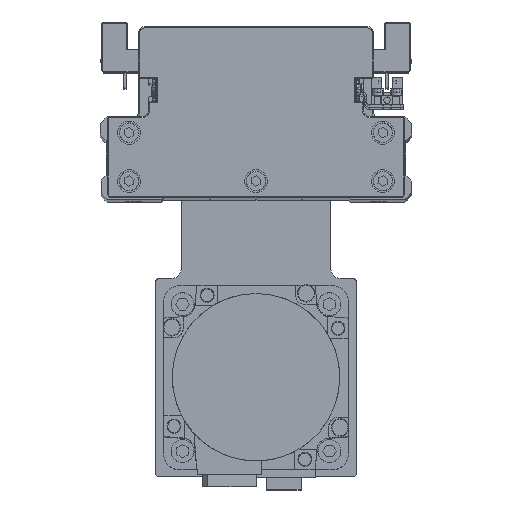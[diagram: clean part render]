
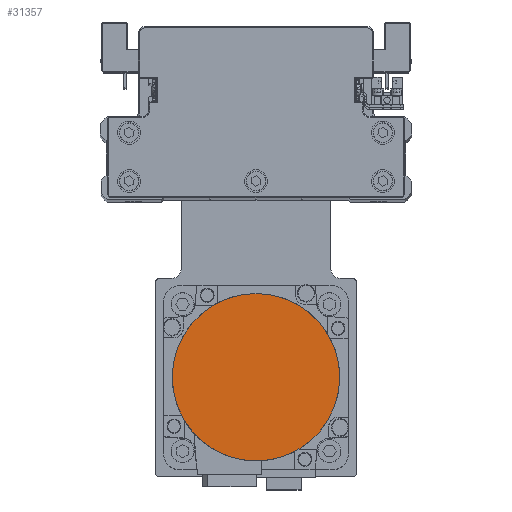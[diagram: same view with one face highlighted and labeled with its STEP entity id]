
A CAD part, top view. The second image highlights one B-rep face of the part: STEP entity #31357.
In plain terms, the highlighted planar face has unit normal (0, 0, 1) as drawn and (0, 0, -1) by its records, which use the part's own axes.
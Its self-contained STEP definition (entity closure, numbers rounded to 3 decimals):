
#483 = EDGE_LOOP ( 'NONE', ( #26224, #37690 ) ) ;
#2942 = DIRECTION ( 'NONE',  ( 0., 0., 1. ) ) ;
#5969 = FACE_OUTER_BOUND ( 'NONE', #483, .T. ) ;
#6678 = CARTESIAN_POINT ( 'NONE',  ( 0., -36.3, -122.2 ) ) ;
#7646 = CIRCLE ( 'NONE', #30074, 36.3 ) ;
#10053 = CARTESIAN_POINT ( 'NONE',  ( 0., 0., -122.2 ) ) ;
#11864 = EDGE_CURVE ( 'NONE', #27876, #30506, #14397, .T. ) ;
#12253 = DIRECTION ( 'NONE',  ( 0., 0., 1. ) ) ;
#14397 = CIRCLE ( 'NONE', #36768, 36.3 ) ;
#15250 = DIRECTION ( 'NONE',  ( 1., 0., 0. ) ) ;
#18280 = PLANE ( 'NONE',  #20989 ) ;
#20989 = AXIS2_PLACEMENT_3D ( 'NONE', #30474, #2942, #15250 ) ;
#22321 = DIRECTION ( 'NONE',  ( 0., 0., 1. ) ) ;
#23473 = EDGE_CURVE ( 'NONE', #30506, #27876, #7646, .T. ) ;
#24499 = DIRECTION ( 'NONE',  ( 0., 1., 0. ) ) ;
#26224 = ORIENTED_EDGE ( 'NONE', *, *, #11864, .F. ) ;
#27876 = VERTEX_POINT ( 'NONE', #38394 ) ;
#30074 = AXIS2_PLACEMENT_3D ( 'NONE', #10053, #22321, #34502 ) ;
#30474 = CARTESIAN_POINT ( 'NONE',  ( 0., 0., -122.2 ) ) ;
#30506 = VERTEX_POINT ( 'NONE', #6678 ) ;
#31357 = ADVANCED_FACE ( 'NONE', ( #5969 ), #18280, .F. ) ;
#34502 = DIRECTION ( 'NONE',  ( 0., -1., 0. ) ) ;
#36768 = AXIS2_PLACEMENT_3D ( 'NONE', #39681, #12253, #24499 ) ;
#37690 = ORIENTED_EDGE ( 'NONE', *, *, #23473, .F. ) ;
#38394 = CARTESIAN_POINT ( 'NONE',  ( 0., 36.3, -122.2 ) ) ;
#39681 = CARTESIAN_POINT ( 'NONE',  ( 0., 0., -122.2 ) ) ;
